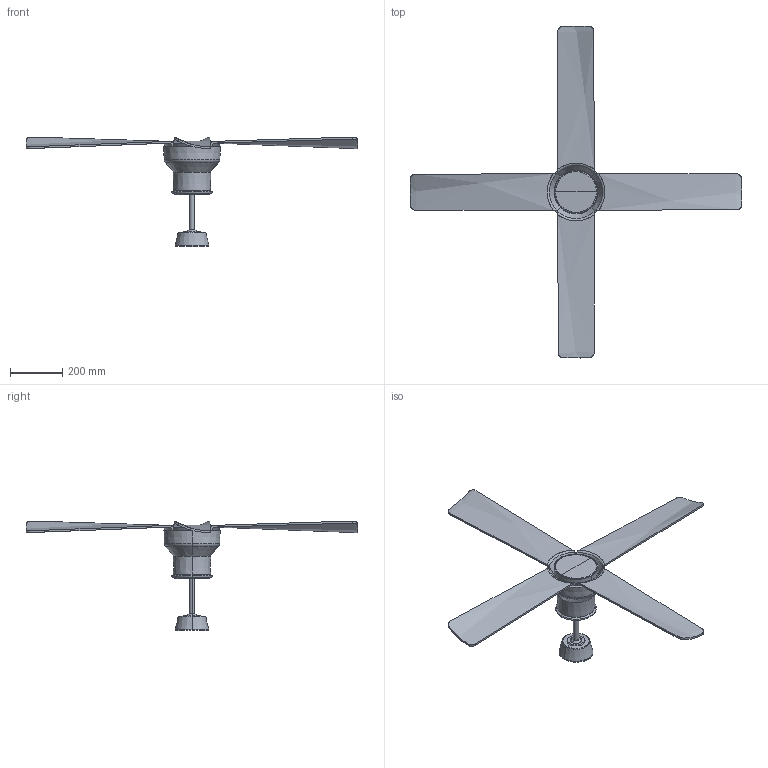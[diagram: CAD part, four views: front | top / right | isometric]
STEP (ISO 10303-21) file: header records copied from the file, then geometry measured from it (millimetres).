
FILE_DESCRIPTION(/* description */ (''),/* implementation_level */ '2;1');
FILE_NAME(/* name */ 'C:\Users\FrancoSartori\Documents\FARO\01_En Proceso\00_WINCHE\03_Publicación\33482.stp',/* time_stamp */ '2021-05-26T14:09:15+02:00',/* author */ ('FrancoSartori'),/* organization */ (''),/* preprocessor_version */ 'ST-DEVELOPER v18.1',/* originating_system */ 'AutoCAD Mechanical',/* authorisation */ '');
FILE_SCHEMA (('AUTOMOTIVE_DESIGN { 1 0 10303 214 3 1 1 }'));
Length unit declared in the file: millimetre
Products named in the file (2): Product; 33481_ 33482_ 33481-7_ 33481WP_ 33481WP-7_ 33482-8_ 33482WP_ 33482WP-
8_ - fan-473989-_3D_
Assembly tree (1 placements, depth 2):
  Product
    33481_ 33482_ 33481-7_ 33481WP_ 33481WP-7_ 33482-8_ 33482WP_ 33482WP-
8_ - fan-473989-_3D_
Bounding box: 1272.1 x 1272.1 x 421.47 mm (x, y, z)
Volume: 6863506 mm3; surface area: 1117064.3 mm2
Topology: 15 solids, 15 shells, 186 faces, 408 edges, 250 vertices
Faces by surface type: plane 76, cylinder 46, cone 30, torus 24, bspline 10
Entity records: 7026 total; most frequent: CARTESIAN_POINT 3215, ORIENTED_EDGE 816, DIRECTION 678, EDGE_CURVE 408, AXIS2_PLACEMENT_3D 261, VERTEX_POINT 250, EDGE_LOOP 190, FACE_OUTER_BOUND 186
